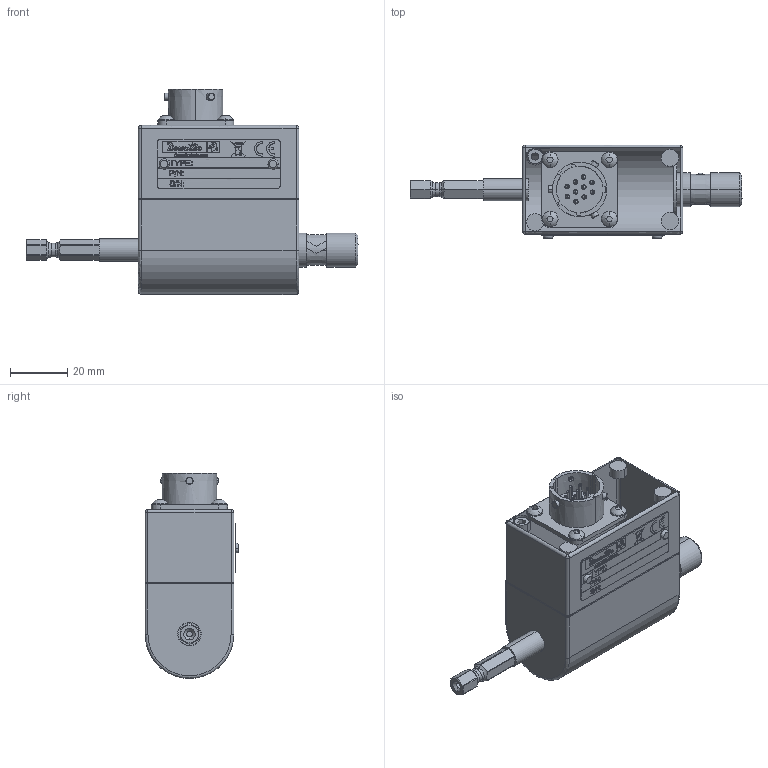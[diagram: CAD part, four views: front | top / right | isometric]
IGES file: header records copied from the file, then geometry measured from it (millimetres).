
Start section:  PTC IGES file: 6151652100.igs
Global section: file name: 6151652100.igs; native system: Creo Parametric by Parametric Technology Corporation; preprocessor: 2013410; author: greextsd; organization: Unknown; date: 20140613.095517; units: millimetre
Bounding box: 115.8 x 32.75 x 71.52 mm (x, y, z)
Surface area: 17090.7 mm2 (no closed solid volume)
Topology: 0 solids, 45 shells, 322 faces, 1845 edges, 1558 vertices
Faces by surface type: revolution 179, bspline 142, extrusion 1
